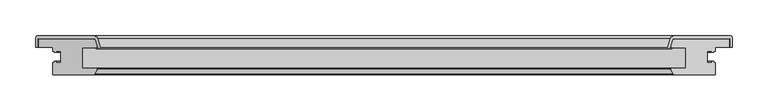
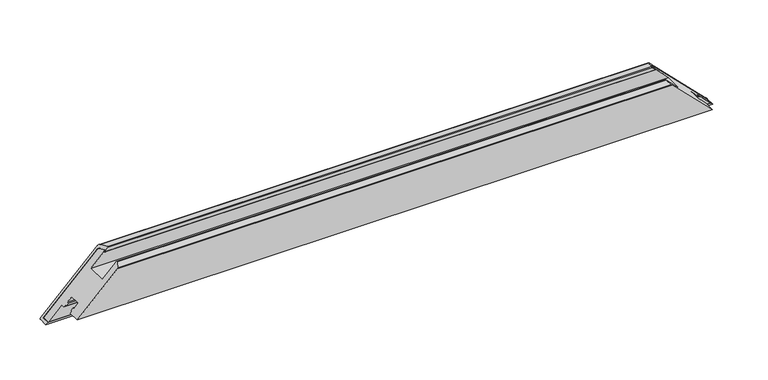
"""IFC4 building model written with IfcOpenShell, lengths in millimetres: proxy geometry, Weiku - Montante - Folha 02.2.01.018 : Weiku - Montante - Folha 02.2.01.018."""

from ifc_helpers import new_model, si_unit, frame, origin, place, context, project, spatial, polyline, ellipse_curve, source, transform, mapped, element, save
from ifc_brep_helpers import plane_surface, cylinder_surface, revolved_surface, advanced_brep


def generic_models_8b678088(model_context):
    return source(origin(), model_context, "Body", "AdvancedBrep", [
        advanced_brep(
        [(480.55, 50.0, 0.0), (403.5497332, 50.0, 77.0002668), (-403.5497332, 50.0, 77.0002668), (-480.55, 50.0, 0.0), (400.6519557, 47.7764571, 79.8980443), (-400.6519557, 47.7764571, 79.8980443), (398.0670371, 38.1294095, 82.4829629), (-398.0670371, 38.1294095, 82.4829629), (398.55, 37.5, 82.0), (-398.55, 37.5, 82.0), (399.4060102, 37.5, 81.1439898), (-399.4060102, 37.5, 81.1439898), (399.4060102, 36.5, 81.1439898), (-399.4060102, 36.5, 81.1439898), (394.7925588, 36.5, 85.7574412), (-394.7925588, 36.5, 85.7574412), (393.8266329, 37.758819, 86.7233671), (-393.8266329, 37.758819, 86.7233671), (397.1854501, 50.2940952, 83.3645499), (-397.1854501, 50.2940952, 83.3645499), (402.0150792, 54.0, 78.5349208), (-402.0150792, 54.0, 78.5349208), (481.55, 54.0, -1.0), (-481.55, 54.0, -1.0), (483.55, 52.0, -3.0), (-483.55, 52.0, -3.0), (483.55, 38.5, -3.0), (-483.55, 38.5, -3.0), (480.55, 38.5, 0.0), (-480.55, 38.5, 0.0)],
        [
            (0, 1),
            (1, 2),
            (2, 3),
            (3, 0),
            (1, 4, ellipse_curve(frame((403.5497332, 47.0, 77.0002668), z_axis=(0.7071067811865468, 0.0, 0.7071067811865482), x_axis=(0.7071067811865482, 0.0, -0.7071067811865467)), 4.2426407, 3.0)),
            (4, 5),
            (5, 2, ellipse_curve(frame((-403.5497332, 47.0, 77.0002668), z_axis=(-0.7071067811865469, 0.0, 0.7071067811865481), x_axis=(0.7071067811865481, 0.0, 0.7071067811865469)), 4.2426407, 3.0)),
            (4, 6),
            (6, 7),
            (7, 5),
            (6, 8, ellipse_curve(frame((398.55, 38.0, 82.0), z_axis=(0.7071067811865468, 0.0, 0.7071067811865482), x_axis=(0.7071067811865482, 0.0, -0.7071067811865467)), 0.7071068, 0.5)),
            (8, 9),
            (9, 7, ellipse_curve(frame((-398.55, 38.0, 82.0), z_axis=(-0.7071067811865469, 0.0, 0.7071067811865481), x_axis=(0.7071067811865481, 0.0, 0.7071067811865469)), 0.7071068, 0.5)),
            (8, 10),
            (10, 11),
            (11, 9),
            (10, 12, ellipse_curve(frame((399.4060102, 37.0, 81.1439898), z_axis=(-0.7071067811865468, 0.0, -0.7071067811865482), x_axis=(-0.7071067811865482, 0.0, 0.7071067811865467)), 0.7071068, 0.5)),
            (12, 13),
            (13, 11, ellipse_curve(frame((-399.4060102, 37.0, 81.1439898), z_axis=(0.7071067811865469, 0.0, -0.7071067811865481), x_axis=(-0.7071067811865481, 0.0, -0.7071067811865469)), 0.7071068, 0.5)),
            (12, 14),
            (14, 15),
            (15, 13),
            (14, 16, ellipse_curve(frame((394.7925588, 37.5, 85.7574412), z_axis=(-0.7071067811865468, 0.0, -0.7071067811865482), x_axis=(-0.7071067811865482, 0.0, 0.7071067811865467)), 1.4142136, 1.0)),
            (16, 17),
            (17, 15, ellipse_curve(frame((-394.7925588, 37.5, 85.7574412), z_axis=(0.7071067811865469, 0.0, -0.7071067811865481), x_axis=(-0.7071067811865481, 0.0, -0.7071067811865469)), 1.4142136, 1.0)),
            (16, 18),
            (18, 19),
            (19, 17),
            (18, 20, ellipse_curve(frame((402.0150792, 49.0, 78.5349208), z_axis=(-0.7071067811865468, 0.0, -0.7071067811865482), x_axis=(-0.7071067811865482, 0.0, 0.7071067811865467)), 7.0710678, 5.0)),
            (20, 21),
            (21, 19, ellipse_curve(frame((-402.0150792, 49.0, 78.5349208), z_axis=(0.7071067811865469, 0.0, -0.7071067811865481), x_axis=(-0.7071067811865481, 0.0, -0.7071067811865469)), 7.0710678, 5.0)),
            (20, 22),
            (22, 23),
            (23, 21),
            (22, 24, ellipse_curve(frame((481.55, 52.0, -1.0), z_axis=(-0.7071067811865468, 0.0, -0.7071067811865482), x_axis=(-0.7071067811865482, 0.0, 0.7071067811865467)), 2.8284271, 2.0)),
            (24, 25),
            (25, 23, ellipse_curve(frame((-481.55, 52.0, -1.0), z_axis=(0.7071067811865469, 0.0, -0.7071067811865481), x_axis=(-0.7071067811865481, 0.0, -0.7071067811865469)), 2.8284271, 2.0)),
            (24, 26),
            (26, 27),
            (27, 25),
            (26, 28),
            (28, 29),
            (29, 27),
            (28, 0),
            (3, 29),
        ],
        [
            plane_surface(frame((-500.55, 50.0, 0.0), z_axis=(0.0, -1.0, 0.0), x_axis=(1.0, 0.0, 0.0))),
            revolved_surface(polyline([(406.54973320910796, 50.0, 77.0002668), (-406.549733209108, 50.0, 77.0002668)]), (-500.55, 47.0, 77.0002668), (1.0, 0.0, 0.0)),
            plane_surface(frame((-500.55, 47.7764571, 79.8980443), z_axis=(0.0, -0.2588190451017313, -0.9659258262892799), x_axis=(1.0, 0.0, 0.0))),
            revolved_surface(polyline([(399.0500000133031, 38.5, 82.0), (-399.05000001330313, 38.5, 82.0)]), (-500.55, 38.0, 82.0), (1.0, 0.0, 0.0)),
            plane_surface(frame((-500.55, 37.5, 82.0), z_axis=(0.0, 1.0, 0.0), x_axis=(1.0, 0.0, 0.0))),
            cylinder_surface(frame((-500.55, 37.0, 81.1439898), z_axis=(-1.0, 0.0, 0.0), x_axis=(0.0, 1.0, 0.0)), 0.5),
            plane_surface(frame((-500.55, 36.5, 81.1439898), z_axis=(0.0, -1.0, 0.0), x_axis=(1.0, 0.0, 0.0))),
            cylinder_surface(frame((-500.55, 37.5, 85.7574412), z_axis=(-1.0, 0.0, 0.0), x_axis=(0.0, 1.0, 0.0)), 1.0),
            plane_surface(frame((-500.55, 37.758819, 86.7233671), z_axis=(0.0, 0.25881904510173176, 0.9659258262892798), x_axis=(1.0, 0.0, 0.0))),
            cylinder_surface(frame((-500.55, 49.0, 78.5349208), z_axis=(-1.0, 0.0, 0.0), x_axis=(0.0, 1.0, 0.0)), 5.0),
            plane_surface(frame((-500.55, 54.0, 78.5349208), z_axis=(0.0, 1.0, 0.0), x_axis=(1.0, 0.0, 0.0))),
            cylinder_surface(frame((-500.55, 52.0, -1.0), z_axis=(-1.0, 0.0, 0.0), x_axis=(0.0, 1.0, 0.0)), 2.0),
            plane_surface(frame((-500.55, 52.0, -3.0), z_axis=(0.0, 0.0, -1.0), x_axis=(1.0, 0.0, 0.0))),
            plane_surface(frame((-500.55, 38.5, -3.0), z_axis=(0.0, -1.0, 0.0), x_axis=(1.0, 0.0, 0.0))),
            plane_surface(frame((-500.55, 38.5, 0.0), z_axis=(0.0, 0.0, 1.0), x_axis=(1.0, 0.0, 0.0))),
            plane_surface(frame((390.55, 0.0, 90.0), z_axis=(0.7071067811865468, 0.0, 0.7071067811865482), x_axis=(0.0, 1.0, 0.0))),
            plane_surface(frame((-508.8342712, 0.0, -28.2842712), z_axis=(-0.7071067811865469, 0.0, 0.7071067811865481), x_axis=(0.0, 1.0, 0.0))),
        ],
        [
            (0, [[1, 2, 3, 4]]),
            (1, [[5, 6, 7, -2]]),
            (2, [[8, 9, 10, -6]]),
            (3, [[11, 12, 13, -9]]),
            (4, [[14, 15, 16, -12]]),
            (5, [[17, 18, 19, -15]]),
            (6, [[20, 21, 22, -18]]),
            (7, [[23, 24, 25, -21]]),
            (8, [[26, 27, 28, -24]]),
            (9, [[29, 30, 31, -27]]),
            (10, [[32, 33, 34, -30]]),
            (11, [[35, 36, 37, -33]]),
            (12, [[38, 39, 40, -36]]),
            (13, [[41, 42, 43, -39]]),
            (14, [[44, -4, 45, -42]]),
            (15, [[-1, -44, -41, -38, -35, -32, -29, -26, -23, -20, -17, -14, -11, -8, -5]]),
            (16, [[-3, -7, -10, -13, -16, -19, -22, -25, -28, -31, -34, -37, -40, -43, -45]]),
        ],
    ),
        advanced_brep(
        [(480.55, 50.0, 0.0), (-480.55, 50.0, 0.0), (-403.5497332, 50.0, 77.0002668), (403.5497332, 50.0, 77.0002668), (480.55, 38.5, 0.0), (-480.55, 38.5, 0.0), (-402.5372264, 0.0, 78.0127736), (-460.55, 0.0, 20.0), (460.55, 0.0, 20.0), (402.5372264, 0.0, 78.0127736), (-460.55, 38.5, 20.0), (-460.55, 33.1, 20.0), (-458.35, 33.1, 22.2), (-458.35, 31.1, 22.2), (-455.55, 31.1, 25.0), (-455.55, 33.1, 25.0), (-449.05, 33.1, 31.5), (-449.05, 16.9, 31.5), (-455.55, 16.9, 25.0), (-455.55, 18.9, 25.0), (-458.35, 18.9, 22.2), (-458.35, 16.9, 22.2), (-460.55, 16.9, 20.0), (-401.6432657, 0.5518546, 78.9067343), (-398.1012796, 7.617411, 82.4487204), (-399.2634285, 9.5, 81.2865715), (-419.05, 9.5, 61.5), (-419.05, 37.5, 61.5), (-398.55, 37.5, 82.0), (-398.0670371, 38.1294095, 82.4829629), (-400.6519557, 47.7764571, 79.8980443), (400.6519557, 47.7764571, 79.8980443), (398.0670371, 38.1294095, 82.4829629), (398.55, 37.5, 82.0), (419.05, 37.5, 61.5), (419.05, 9.5, 61.5), (399.2634285, 9.5, 81.2865715), (398.1012796, 7.617411, 82.4487204), (401.6432657, 0.5518546, 78.9067343), (460.55, 16.9, 20.0), (458.35, 16.9, 22.2), (458.35, 18.9, 22.2), (455.55, 18.9, 25.0), (455.55, 16.9, 25.0), (449.05, 16.9, 31.5), (449.05, 33.1, 31.5), (455.55, 33.1, 25.0), (455.55, 31.1, 25.0), (458.35, 31.1, 22.2), (458.35, 33.1, 22.2), (460.55, 33.1, 20.0), (460.55, 38.5, 20.0)],
        [
            (0, 1),
            (1, 2),
            (2, 3),
            (3, 0),
            (0, 4),
            (4, 5),
            (5, 1),
            (6, 7),
            (7, 8),
            (8, 9),
            (9, 6),
            (5, 10),
            (10, 11),
            (11, 12),
            (12, 13),
            (13, 14),
            (14, 15),
            (15, 16),
            (16, 17),
            (17, 18),
            (18, 19),
            (19, 20),
            (20, 21),
            (21, 22),
            (22, 7),
            (6, 23, ellipse_curve(frame((-402.5372264, 1.0, 78.0127736), z_axis=(-0.7071067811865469, 0.0, 0.7071067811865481), x_axis=(-0.7071067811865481, 0.0, -0.7071067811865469)), 1.4142136, 1.0)),
            (23, 24),
            (24, 25, ellipse_curve(frame((-399.2634285, 8.2, 81.2865715), z_axis=(-0.7071067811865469, 0.0, 0.7071067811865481), x_axis=(-0.7071067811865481, 0.0, -0.7071067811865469)), 1.8384776, 1.3)),
            (25, 26),
            (26, 27),
            (27, 28),
            (28, 29, ellipse_curve(frame((-398.55, 38.0, 82.0), z_axis=(-0.7071067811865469, 0.0, 0.7071067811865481), x_axis=(-0.7071067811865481, 0.0, -0.7071067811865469)), 0.7071068, 0.5)),
            (29, 30),
            (30, 2, ellipse_curve(frame((-403.5497332, 47.0, 77.0002668), z_axis=(-0.7071067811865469, 0.0, 0.7071067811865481), x_axis=(-0.7071067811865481, 0.0, -0.7071067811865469)), 4.2426407, 3.0)),
            (3, 31, ellipse_curve(frame((403.5497332, 47.0, 77.0002668), z_axis=(0.7071067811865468, 0.0, 0.7071067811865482), x_axis=(-0.7071067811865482, 0.0, 0.7071067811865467)), 4.2426407, 3.0)),
            (31, 32),
            (32, 33, ellipse_curve(frame((398.55, 38.0, 82.0), z_axis=(0.7071067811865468, 0.0, 0.7071067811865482), x_axis=(-0.7071067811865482, 0.0, 0.7071067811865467)), 0.7071068, 0.5)),
            (33, 34),
            (34, 35),
            (35, 36),
            (36, 37, ellipse_curve(frame((399.2634285, 8.2, 81.2865715), z_axis=(0.7071067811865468, 0.0, 0.7071067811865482), x_axis=(-0.7071067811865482, 0.0, 0.7071067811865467)), 1.8384776, 1.3)),
            (37, 38),
            (38, 9, ellipse_curve(frame((402.5372264, 1.0, 78.0127736), z_axis=(0.7071067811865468, 0.0, 0.7071067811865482), x_axis=(-0.7071067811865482, 0.0, 0.7071067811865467)), 1.4142136, 1.0)),
            (8, 39),
            (39, 40),
            (40, 41),
            (41, 42),
            (42, 43),
            (43, 44),
            (44, 45),
            (45, 46),
            (46, 47),
            (47, 48),
            (48, 49),
            (49, 50),
            (50, 51),
            (51, 4),
            (38, 23),
            (37, 24),
            (36, 25),
            (35, 26),
            (34, 27),
            (33, 28),
            (32, 29),
            (31, 30),
            (51, 10),
            (50, 11),
            (49, 12),
            (48, 13),
            (47, 14),
            (46, 15),
            (45, 16),
            (44, 17),
            (43, 18),
            (42, 19),
            (41, 20),
            (40, 21),
            (39, 22),
        ],
        [
            plane_surface(frame((-480.55, 50.0, 77.0002668), z_axis=(0.0, 1.0, 0.0), x_axis=(1.0, 0.0, 0.0))),
            plane_surface(frame((-480.55, 50.0, 0.0), z_axis=(0.0, 0.0, -1.0), x_axis=(1.0, 0.0, 0.0))),
            plane_surface(frame((-480.55, 0.0, 20.0), z_axis=(0.0, -1.0, 0.0), x_axis=(1.0, 0.0, 0.0))),
            plane_surface(frame((-508.8342712, 0.0, -28.2842712), z_axis=(-0.7071067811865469, 0.0, 0.7071067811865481), x_axis=(0.0, 1.0, 0.0))),
            plane_surface(frame((390.55, 0.0, 90.0), z_axis=(0.7071067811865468, 0.0, 0.7071067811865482), x_axis=(0.0, 1.0, 0.0))),
            cylinder_surface(frame((-480.55, 1.0, 78.0127736), z_axis=(-1.0, 0.0, 0.0), x_axis=(0.0, 1.0, 0.0)), 1.0),
            plane_surface(frame((-480.55, 0.5518546, 78.9067343), z_axis=(0.0, -0.4481453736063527, 0.8939606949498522), x_axis=(1.0, 0.0, 0.0))),
            cylinder_surface(frame((-480.55, 8.2, 81.2865715), z_axis=(-1.0, 0.0, 0.0), x_axis=(0.0, 1.0, 0.0)), 1.3),
            plane_surface(frame((-480.55, 9.5, 81.2865715), z_axis=(0.0, 1.0, 0.0), x_axis=(1.0, 0.0, 0.0))),
            plane_surface(frame((-480.55, 9.5, 61.5), z_axis=(0.0, 0.0, 1.0), x_axis=(1.0, 0.0, 0.0))),
            plane_surface(frame((-480.55, 37.5, 61.5), z_axis=(0.0, -1.0, 0.0), x_axis=(1.0, 0.0, 0.0))),
            cylinder_surface(frame((-480.55, 38.0, 82.0), z_axis=(-1.0, 0.0, 0.0), x_axis=(0.0, 1.0, 0.0)), 0.5),
            plane_surface(frame((-480.55, 38.1294095, 82.4829629), z_axis=(0.0, 0.2588190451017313, 0.9659258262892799), x_axis=(1.0, 0.0, 0.0))),
            cylinder_surface(frame((-480.55, 47.0, 77.0002668), z_axis=(-1.0, 0.0, 0.0), x_axis=(0.0, 1.0, 0.0)), 3.0),
            plane_surface(frame((-480.55, 38.5, 0.0), z_axis=(0.0, -1.0, 0.0), x_axis=(1.0, 0.0, 0.0))),
            plane_surface(frame((-480.55, 38.5, 20.0), z_axis=(0.0, 0.0, -1.0), x_axis=(1.0, 0.0, 0.0))),
            plane_surface(frame((-480.55, 33.1, 20.0), z_axis=(0.0, -1.0, 0.0), x_axis=(1.0, 0.0, 0.0))),
            plane_surface(frame((-480.55, 33.1, 22.2), z_axis=(0.0, 0.0, -1.0), x_axis=(1.0, 0.0, 0.0))),
            plane_surface(frame((-480.55, 31.1, 22.2), z_axis=(0.0, -1.0, 0.0), x_axis=(1.0, 0.0, 0.0))),
            plane_surface(frame((-480.55, 31.1, 25.0), z_axis=(0.0, 0.0, 1.0), x_axis=(1.0, 0.0, 0.0))),
            plane_surface(frame((-480.55, 33.1, 25.0), z_axis=(0.0, -1.0, 0.0), x_axis=(1.0, 0.0, 0.0))),
            plane_surface(frame((-480.55, 33.1, 31.5), z_axis=(0.0, 0.0, -1.0), x_axis=(1.0, 0.0, 0.0))),
            plane_surface(frame((-480.55, 16.9, 31.5), z_axis=(0.0, 1.0, 0.0), x_axis=(1.0, 0.0, 0.0))),
            plane_surface(frame((-480.55, 16.9, 25.0), z_axis=(0.0, 0.0, 1.0), x_axis=(1.0, 0.0, 0.0))),
            plane_surface(frame((-480.55, 18.9, 25.0), z_axis=(0.0, 1.0, 0.0), x_axis=(1.0, 0.0, 0.0))),
            plane_surface(frame((-480.55, 18.9, 22.2), z_axis=(0.0, 0.0, -1.0), x_axis=(1.0, 0.0, 0.0))),
            plane_surface(frame((-480.55, 16.9, 22.2), z_axis=(0.0, 1.0, 0.0), x_axis=(1.0, 0.0, 0.0))),
            plane_surface(frame((-480.55, 16.9, 20.0), z_axis=(0.0, 0.0, -1.0), x_axis=(1.0, 0.0, 0.0))),
        ],
        [
            (0, [[1, 2, 3, 4]]),
            (1, [[-1, 5, 6, 7]]),
            (2, [[8, 9, 10, 11]]),
            (3, [[-2, -7, 12, 13, 14, 15, 16, 17, 18, 19, 20, 21, 22, 23, 24, 25, -8, 26, 27, 28, 29, 30, 31, 32, 33, 34]]),
            (4, [[-4, 35, 36, 37, 38, 39, 40, 41, 42, 43, -10, 44, 45, 46, 47, 48, 49, 50, 51, 52, 53, 54, 55, 56, 57, -5]]),
            (5, [[-26, -11, -43, 58]]),
            (6, [[-27, -58, -42, 59]]),
            (7, [[-28, -59, -41, 60]]),
            (8, [[-29, -60, -40, 61]]),
            (9, [[-30, -61, -39, 62]]),
            (10, [[-31, -62, -38, 63]]),
            (11, [[-32, -63, -37, 64]]),
            (12, [[-33, -64, -36, 65]]),
            (13, [[-34, -65, -35, -3]]),
            (14, [[-6, -57, 66, -12]]),
            (15, [[-13, -66, -56, 67]]),
            (16, [[-14, -67, -55, 68]]),
            (17, [[-15, -68, -54, 69]]),
            (18, [[-16, -69, -53, 70]]),
            (19, [[-17, -70, -52, 71]]),
            (20, [[-18, -71, -51, 72]]),
            (21, [[-19, -72, -50, 73]]),
            (22, [[-20, -73, -49, 74]]),
            (23, [[-21, -74, -48, 75]]),
            (24, [[-22, -75, -47, 76]]),
            (25, [[-23, -76, -46, 77]]),
            (26, [[-24, -77, -45, 78]]),
            (27, [[-25, -78, -44, -9]]),
        ],
    ),
    ])


if __name__ == "__main__":
    model = new_model("IFC4")
    model_context = context("Model", 3, world=origin())
    ifc_project = project(units=[si_unit("LENGTHUNIT", "METRE", prefix="MILLI")], contexts=[model_context])
    site = spatial("IfcSite", under=ifc_project)
    building = spatial("IfcBuilding", under=site)
    placement = place(None, origin())
    generic_models_shape = generic_models_8b678088(model_context)
    element("IfcBuildingElementProxy", 1, Name="Weiku - Montante - Folha 02.2.01.018 : Weiku - Montante - Folha 02.2.01.018", ObjectType="Weiku - Montante - Folha 02.2.01.018 : Weiku - Montante - Folha 02.2.01.018", at=placement, inside=building, context=model_context, shape_type="MappedRepresentation", body=[
        mapped(generic_models_shape, transform((0.0, 0.0, 0.0), x_axis=(1.0, 0.0, 0.0), y_axis=(0.0, 1.0, 0.0), z_axis=(0.0, 0.0, 1.0))),
    ])
    save(model, "model.ifc")
